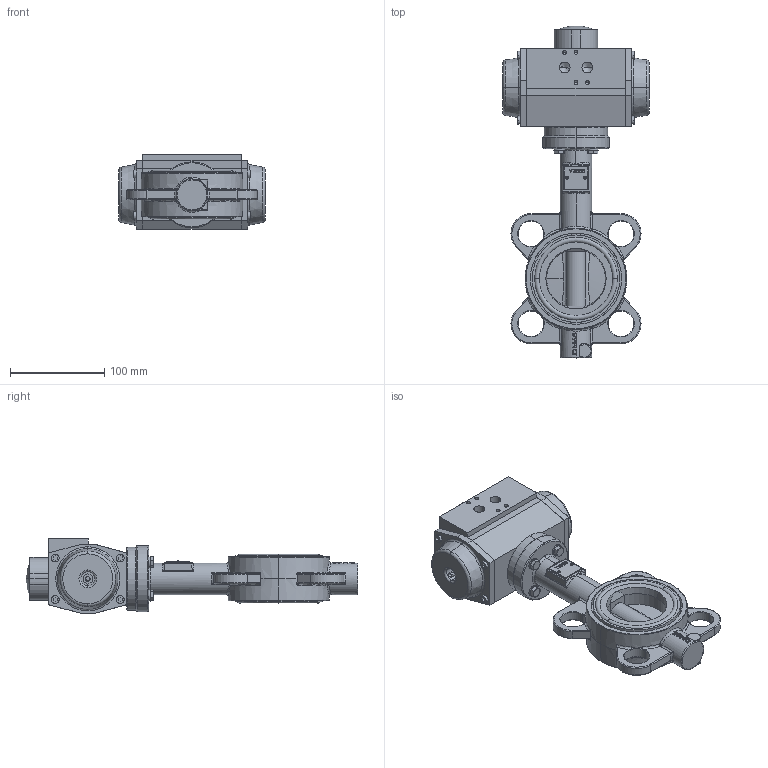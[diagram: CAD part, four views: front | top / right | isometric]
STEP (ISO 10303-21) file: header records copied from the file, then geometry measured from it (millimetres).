
FILE_DESCRIPTION (( 'STEP AP214' ), '1' );
FILE_NAME ('VTB200 DN65 + AP2D.STEP', '2015-10-04T19:17:12', ( '' ), ( '' ), 'SwSTEP 2.0', 'SolidWorks 2013', '' );
FILE_SCHEMA (( 'AUTOMOTIVE_DESIGN' ));
Length unit declared in the file: millimetre
Products named in the file (10): hex bolt gradeb_din_ISO 4015 - M6 x 30 x 18-N; YF067F5F5H10D15NYL; Verloopvierkant 11_9; AP2 - F5_Default<As Machined>; VTB200 Wafer DN65 BS; Typeplaatje xxmm; Klep VTB200 DN65 2013; Huis met zitting DN65 2013; VTB200 DN65 + AP2D; plain washer grade a_din_Washer DIN 125 - A 6.4
Assembly tree (15 placements, depth 3):
  VTB200 DN65 + AP2D
    VTB200 Wafer DN65 BS
      Huis met zitting DN65 2013
      Klep VTB200 DN65 2013
      Typeplaatje xxmm
    AP2 - F5_Default<As Machined>
    Verloopvierkant 11_9
    YF067F5F5H10D15NYL
    hex bolt gradeb_din_ISO 4015 - M6 x 30 x 18-N  x4
    plain washer grade a_din_Washer DIN 125 - A 6.4  x4
Bounding box: 155 x 351.99 x 79 mm (x, y, z)
Volume: 1379630.8 mm3; surface area: 199260.3 mm2
Topology: 21 solids, 21 shells, 988 faces, 2383 edges, 1451 vertices
Faces by surface type: plane 337, cylinder 239, bspline 164, cone 120, torus 110, sphere 18
Entity records: 42074 total; most frequent: CARTESIAN_POINT 19247, ORIENTED_EDGE 4358, DIRECTION 4072, EDGE_CURVE 2179, AXIS2_PLACEMENT_3D 1576, VERTEX_POINT 1355, EDGE_LOOP 1014, VECTOR 920
